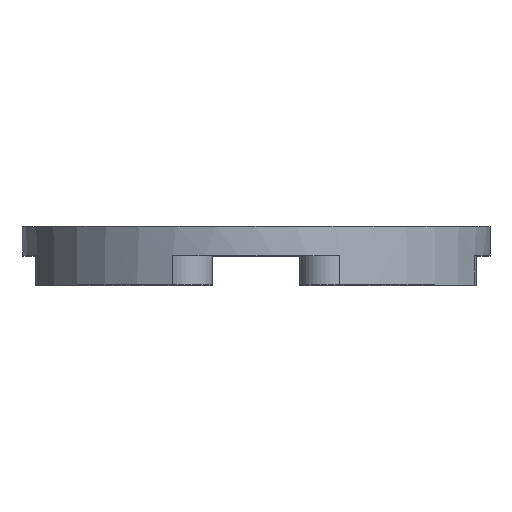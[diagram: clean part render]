
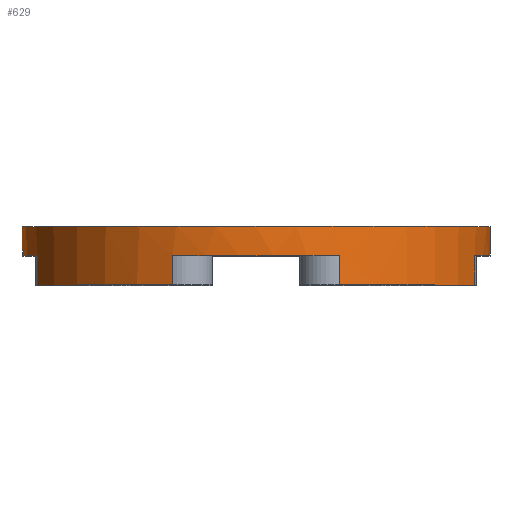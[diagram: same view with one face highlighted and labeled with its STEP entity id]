
A CAD part, top view. The second image highlights one B-rep face of the part: STEP entity #629.
In plain terms, the highlighted cylindrical face has radius 4 mm (diameter 8 mm), a full revolution.
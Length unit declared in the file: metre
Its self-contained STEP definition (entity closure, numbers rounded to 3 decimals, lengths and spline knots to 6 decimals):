
#29=LINE('',#989,#77);
#30=LINE('',#993,#78);
#31=LINE('',#997,#79);
#32=LINE('',#1001,#80);
#33=LINE('',#1005,#81);
#34=LINE('',#1009,#82);
#35=LINE('',#1013,#83);
#36=LINE('',#1017,#84);
#77=VECTOR('',#770,1.);
#78=VECTOR('',#773,1.);
#79=VECTOR('',#776,1.);
#80=VECTOR('',#779,1.);
#81=VECTOR('',#782,1.);
#82=VECTOR('',#785,1.);
#83=VECTOR('',#788,1.);
#84=VECTOR('',#791,1.);
#125=ORIENTED_EDGE('',*,*,#321,.T.);
#126=ORIENTED_EDGE('',*,*,#322,.T.);
#127=ORIENTED_EDGE('',*,*,#323,.T.);
#128=ORIENTED_EDGE('',*,*,#324,.T.);
#129=ORIENTED_EDGE('',*,*,#325,.T.);
#130=ORIENTED_EDGE('',*,*,#326,.T.);
#131=ORIENTED_EDGE('',*,*,#327,.T.);
#132=ORIENTED_EDGE('',*,*,#328,.T.);
#133=ORIENTED_EDGE('',*,*,#329,.T.);
#134=ORIENTED_EDGE('',*,*,#330,.T.);
#135=ORIENTED_EDGE('',*,*,#331,.T.);
#136=ORIENTED_EDGE('',*,*,#332,.T.);
#137=ORIENTED_EDGE('',*,*,#333,.T.);
#138=ORIENTED_EDGE('',*,*,#334,.T.);
#139=ORIENTED_EDGE('',*,*,#335,.T.);
#140=ORIENTED_EDGE('',*,*,#336,.T.);
#141=ORIENTED_EDGE('',*,*,#337,.T.);
#321=EDGE_CURVE('',#419,#419,#485,.T.);
#322=EDGE_CURVE('',#420,#421,#486,.T.);
#323=EDGE_CURVE('',#421,#422,#29,.T.);
#324=EDGE_CURVE('',#422,#423,#487,.F.);
#325=EDGE_CURVE('',#423,#424,#30,.F.);
#326=EDGE_CURVE('',#424,#425,#488,.T.);
#327=EDGE_CURVE('',#425,#426,#31,.T.);
#328=EDGE_CURVE('',#426,#427,#489,.F.);
#329=EDGE_CURVE('',#427,#428,#32,.F.);
#330=EDGE_CURVE('',#428,#429,#490,.T.);
#331=EDGE_CURVE('',#429,#430,#33,.T.);
#332=EDGE_CURVE('',#430,#431,#491,.F.);
#333=EDGE_CURVE('',#431,#432,#34,.F.);
#334=EDGE_CURVE('',#432,#433,#492,.T.);
#335=EDGE_CURVE('',#433,#434,#35,.T.);
#336=EDGE_CURVE('',#434,#435,#493,.F.);
#337=EDGE_CURVE('',#435,#420,#36,.F.);
#419=VERTEX_POINT('',#985);
#420=VERTEX_POINT('',#987);
#421=VERTEX_POINT('',#988);
#422=VERTEX_POINT('',#990);
#423=VERTEX_POINT('',#992);
#424=VERTEX_POINT('',#994);
#425=VERTEX_POINT('',#996);
#426=VERTEX_POINT('',#998);
#427=VERTEX_POINT('',#1000);
#428=VERTEX_POINT('',#1002);
#429=VERTEX_POINT('',#1004);
#430=VERTEX_POINT('',#1006);
#431=VERTEX_POINT('',#1008);
#432=VERTEX_POINT('',#1010);
#433=VERTEX_POINT('',#1012);
#434=VERTEX_POINT('',#1014);
#435=VERTEX_POINT('',#1016);
#485=CIRCLE('',#678,0.004);
#486=CIRCLE('',#679,0.004);
#487=CIRCLE('',#680,0.004);
#488=CIRCLE('',#681,0.004);
#489=CIRCLE('',#682,0.004);
#490=CIRCLE('',#683,0.004);
#491=CIRCLE('',#684,0.004);
#492=CIRCLE('',#685,0.004);
#493=CIRCLE('',#686,0.004);
#535=EDGE_LOOP('',(#125));
#536=EDGE_LOOP('',(#126,#127,#128,#129,#130,#131,#132,#133,#134,#135,#136,
#137,#138,#139,#140,#141));
#573=FACE_BOUND('',#535,.T.);
#574=FACE_BOUND('',#536,.T.);
#611=CYLINDRICAL_SURFACE('',#677,0.004);
#629=ADVANCED_FACE('',(#573,#574),#611,.T.);
#677=AXIS2_PLACEMENT_3D('',#983,#764,#765);
#678=AXIS2_PLACEMENT_3D('',#984,#766,#767);
#679=AXIS2_PLACEMENT_3D('',#986,#768,#769);
#680=AXIS2_PLACEMENT_3D('',#991,#771,#772);
#681=AXIS2_PLACEMENT_3D('',#995,#774,#775);
#682=AXIS2_PLACEMENT_3D('',#999,#777,#778);
#683=AXIS2_PLACEMENT_3D('',#1003,#780,#781);
#684=AXIS2_PLACEMENT_3D('',#1007,#783,#784);
#685=AXIS2_PLACEMENT_3D('',#1011,#786,#787);
#686=AXIS2_PLACEMENT_3D('',#1015,#789,#790);
#764=DIRECTION('',(0.,1.,0.));
#765=DIRECTION('',(1.,0.,0.));
#766=DIRECTION('',(0.,-1.,0.));
#767=DIRECTION('',(1.,0.,0.));
#768=DIRECTION('',(0.,1.,0.));
#769=DIRECTION('',(0.982,0.,-0.187));
#770=DIRECTION('',(0.,1.,0.));
#771=DIRECTION('',(0.,-1.,0.));
#772=DIRECTION('',(0.,0.,-1.));
#773=DIRECTION('',(0.,1.,0.));
#774=DIRECTION('',(0.,1.,0.));
#775=DIRECTION('',(0.982,0.,-0.187));
#776=DIRECTION('',(0.,1.,0.));
#777=DIRECTION('',(0.,-1.,0.));
#778=DIRECTION('',(0.,0.,-1.));
#779=DIRECTION('',(0.,1.,0.));
#780=DIRECTION('',(0.,1.,0.));
#781=DIRECTION('',(0.982,0.,-0.187));
#782=DIRECTION('',(0.,1.,0.));
#783=DIRECTION('',(0.,-1.,0.));
#784=DIRECTION('',(0.,0.,-1.));
#785=DIRECTION('',(0.,1.,0.));
#786=DIRECTION('',(0.,1.,0.));
#787=DIRECTION('',(0.982,0.,-0.187));
#788=DIRECTION('',(0.,1.,0.));
#789=DIRECTION('',(0.,-1.,0.));
#790=DIRECTION('',(0.,0.,-1.));
#791=DIRECTION('',(0.,1.,0.));
#983=CARTESIAN_POINT('',(0.,0.00795,0.));
#984=CARTESIAN_POINT('',(0.,0.00895,0.));
#985=CARTESIAN_POINT('',(0.004,0.00895,0.));
#986=CARTESIAN_POINT('',(0.,0.00795,0.));
#987=CARTESIAN_POINT('',(-0.001429,0.00795,-0.003736));
#988=CARTESIAN_POINT('',(-0.003736,0.00795,-0.001429));
#989=CARTESIAN_POINT('',(-0.003736,0.00795,-0.001429));
#990=CARTESIAN_POINT('',(-0.003736,0.00845,-0.001429));
#991=CARTESIAN_POINT('',(0.,0.00845,0.));
#992=CARTESIAN_POINT('',(-0.003736,0.00845,0.001429));
#993=CARTESIAN_POINT('',(-0.003736,0.00795,0.001429));
#994=CARTESIAN_POINT('',(-0.003736,0.00795,0.001429));
#995=CARTESIAN_POINT('',(0.,0.00795,0.));
#996=CARTESIAN_POINT('',(-0.001429,0.00795,0.003736));
#997=CARTESIAN_POINT('',(-0.001429,0.00795,0.003736));
#998=CARTESIAN_POINT('',(-0.001429,0.00845,0.003736));
#999=CARTESIAN_POINT('',(0.,0.00845,0.));
#1000=CARTESIAN_POINT('',(0.001429,0.00845,0.003736));
#1001=CARTESIAN_POINT('',(0.001429,0.00795,0.003736));
#1002=CARTESIAN_POINT('',(0.001429,0.00795,0.003736));
#1003=CARTESIAN_POINT('',(0.,0.00795,0.));
#1004=CARTESIAN_POINT('',(0.003736,0.00795,0.001429));
#1005=CARTESIAN_POINT('',(0.003736,0.00795,0.001429));
#1006=CARTESIAN_POINT('',(0.003736,0.00845,0.001429));
#1007=CARTESIAN_POINT('',(0.,0.00845,0.));
#1008=CARTESIAN_POINT('',(0.003736,0.00845,-0.001429));
#1009=CARTESIAN_POINT('',(0.003736,0.00795,-0.001429));
#1010=CARTESIAN_POINT('',(0.003736,0.00795,-0.001429));
#1011=CARTESIAN_POINT('',(0.,0.00795,0.));
#1012=CARTESIAN_POINT('',(0.001429,0.00795,-0.003736));
#1013=CARTESIAN_POINT('',(0.001429,0.00795,-0.003736));
#1014=CARTESIAN_POINT('',(0.001429,0.00845,-0.003736));
#1015=CARTESIAN_POINT('',(0.,0.00845,0.));
#1016=CARTESIAN_POINT('',(-0.001429,0.00845,-0.003736));
#1017=CARTESIAN_POINT('',(-0.001429,0.00795,-0.003736));
